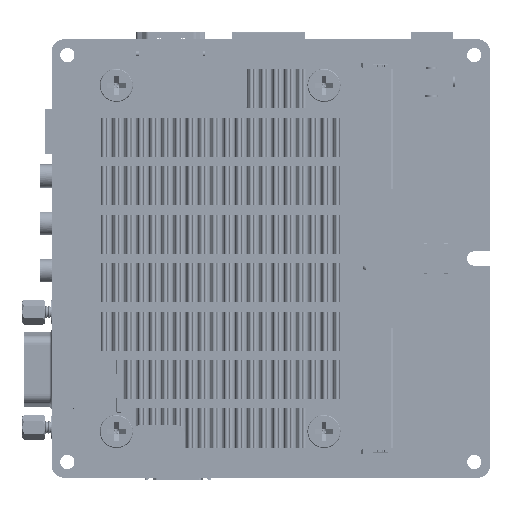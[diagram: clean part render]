
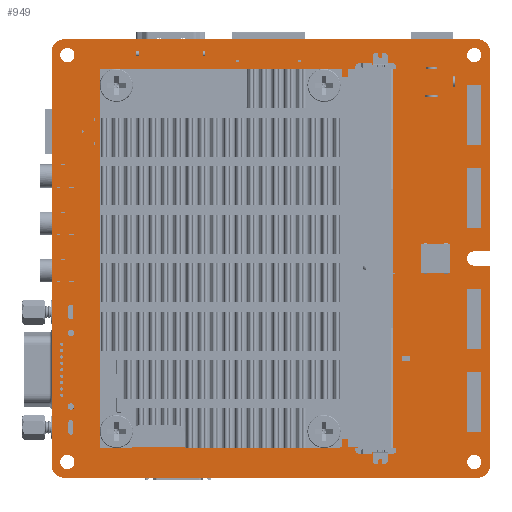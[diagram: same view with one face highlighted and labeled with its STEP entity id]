
A CAD part, front view. The second image highlights one B-rep face of the part: STEP entity #949.
In plain terms, the highlighted planar face has unit normal (0, -1, 0).
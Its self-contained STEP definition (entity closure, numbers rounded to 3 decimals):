
#253=CARTESIAN_POINT('',(44.08,-1.6,-44.08));
#254=DIRECTION('',(0.,1.,0.));
#255=DIRECTION('',(1.,0.,0.));
#256=AXIS2_PLACEMENT_3D('',#253,#254,#255);
#261=CARTESIAN_POINT('',(44.08,-1.6,-44.08));
#262=DIRECTION('',(0.,1.,0.));
#263=DIRECTION('',(-1.,0.,0.));
#264=AXIS2_PLACEMENT_3D('',#261,#262,#263);
#269=CARTESIAN_POINT('',(44.08,-1.6,44.08));
#270=DIRECTION('',(0.,1.,0.));
#271=DIRECTION('',(1.,0.,0.));
#272=AXIS2_PLACEMENT_3D('',#269,#270,#271);
#277=CARTESIAN_POINT('',(44.08,-1.6,44.08));
#278=DIRECTION('',(0.,1.,0.));
#279=DIRECTION('',(-1.,0.,0.));
#280=AXIS2_PLACEMENT_3D('',#277,#278,#279);
#285=CARTESIAN_POINT('',(-44.08,-1.6,-44.08));
#286=DIRECTION('',(0.,1.,0.));
#287=DIRECTION('',(1.,0.,0.));
#288=AXIS2_PLACEMENT_3D('',#285,#286,#287);
#293=CARTESIAN_POINT('',(-44.08,-1.6,-44.08));
#294=DIRECTION('',(0.,1.,0.));
#295=DIRECTION('',(-1.,0.,0.));
#296=AXIS2_PLACEMENT_3D('',#293,#294,#295);
#301=CARTESIAN_POINT('',(-44.08,-1.6,44.08));
#302=DIRECTION('',(0.,1.,0.));
#303=DIRECTION('',(1.,0.,0.));
#304=AXIS2_PLACEMENT_3D('',#301,#302,#303);
#309=CARTESIAN_POINT('',(-44.08,-1.6,44.08));
#310=DIRECTION('',(0.,1.,0.));
#311=DIRECTION('',(-1.,0.,0.));
#312=AXIS2_PLACEMENT_3D('',#309,#310,#311);
#317=CARTESIAN_POINT('',(44.8,-1.6,-44.8));
#318=DIRECTION('',(0.,-1.,0.));
#319=DIRECTION('',(0.,0.,-1.));
#320=AXIS2_PLACEMENT_3D('',#317,#318,#319);
#325=DIRECTION('',(-1.,0.,0.));
#326=VECTOR('',#325,89.6);
#327=CARTESIAN_POINT('',(44.8,-1.6,-47.5));
#328=LINE('',#327,#326);
#332=CARTESIAN_POINT('',(-44.8,-1.6,-44.8));
#333=DIRECTION('',(0.,-1.,0.));
#334=DIRECTION('',(-1.,0.,0.));
#335=AXIS2_PLACEMENT_3D('',#332,#333,#334);
#340=DIRECTION('',(0.,0.,1.));
#341=VECTOR('',#340,89.6);
#342=CARTESIAN_POINT('',(-47.5,-1.6,-44.8));
#343=LINE('',#342,#341);
#347=CARTESIAN_POINT('',(-44.8,-1.6,44.8));
#348=DIRECTION('',(0.,-1.,0.));
#349=DIRECTION('',(0.,0.,1.));
#350=AXIS2_PLACEMENT_3D('',#347,#348,#349);
#355=DIRECTION('',(1.,0.,0.));
#356=VECTOR('',#355,89.6);
#357=CARTESIAN_POINT('',(-44.8,-1.6,47.5));
#358=LINE('',#357,#356);
#362=CARTESIAN_POINT('',(44.8,-1.6,44.8));
#363=DIRECTION('',(0.,-1.,0.));
#364=DIRECTION('',(1.,0.,0.));
#365=AXIS2_PLACEMENT_3D('',#362,#363,#364);
#370=DIRECTION('',(0.,0.,-1.));
#371=VECTOR('',#370,43.25);
#372=CARTESIAN_POINT('',(47.5,-1.6,44.8));
#373=LINE('',#372,#371);
#377=DIRECTION('',(-1.,0.,0.));
#378=VECTOR('',#377,3.42);
#379=CARTESIAN_POINT('',(47.5,-1.6,1.55));
#380=LINE('',#379,#378);
#384=CARTESIAN_POINT('',(44.08,-1.6,0.));
#385=DIRECTION('',(0.,1.,0.));
#386=DIRECTION('',(0.,0.,-1.));
#387=AXIS2_PLACEMENT_3D('',#384,#385,#386);
#392=DIRECTION('',(-1.,0.,0.));
#393=VECTOR('',#392,3.42);
#394=CARTESIAN_POINT('',(47.5,-1.6,-1.55));
#395=LINE('',#394,#393);
#399=DIRECTION('',(0.,0.,-1.));
#400=VECTOR('',#399,43.25);
#401=CARTESIAN_POINT('',(47.5,-1.6,-1.55));
#402=LINE('',#401,#400);
#406=CARTESIAN_POINT('',(11.53,-1.6,37.52));
#407=DIRECTION('',(0.,-1.,0.));
#408=DIRECTION('',(0.,0.,-1.));
#409=AXIS2_PLACEMENT_3D('',#406,#407,#408);
#414=CARTESIAN_POINT('',(11.53,-1.6,37.52));
#415=DIRECTION('',(0.,-1.,0.));
#416=DIRECTION('',(0.,0.,1.));
#417=AXIS2_PLACEMENT_3D('',#414,#415,#416);
#422=CARTESIAN_POINT('',(-33.47,-1.6,37.52));
#423=DIRECTION('',(0.,-1.,0.));
#424=DIRECTION('',(0.,0.,-1.));
#425=AXIS2_PLACEMENT_3D('',#422,#423,#424);
#430=CARTESIAN_POINT('',(-33.47,-1.6,37.52));
#431=DIRECTION('',(0.,-1.,0.));
#432=DIRECTION('',(0.,0.,1.));
#433=AXIS2_PLACEMENT_3D('',#430,#431,#432);
#438=CARTESIAN_POINT('',(11.53,-1.6,-37.52));
#439=DIRECTION('',(0.,-1.,0.));
#440=DIRECTION('',(0.,0.,-1.));
#441=AXIS2_PLACEMENT_3D('',#438,#439,#440);
#446=CARTESIAN_POINT('',(11.53,-1.6,-37.52));
#447=DIRECTION('',(0.,-1.,0.));
#448=DIRECTION('',(0.,0.,1.));
#449=AXIS2_PLACEMENT_3D('',#446,#447,#448);
#454=CARTESIAN_POINT('',(-33.47,-1.6,-37.52));
#455=DIRECTION('',(0.,-1.,0.));
#456=DIRECTION('',(0.,0.,-1.));
#457=AXIS2_PLACEMENT_3D('',#454,#455,#456);
#462=CARTESIAN_POINT('',(-33.47,-1.6,-37.52));
#463=DIRECTION('',(0.,-1.,0.));
#464=DIRECTION('',(0.,0.,1.));
#465=AXIS2_PLACEMENT_3D('',#462,#463,#464);
#656=CARTESIAN_POINT('',(45.63,-1.6,-44.08));
#657=VERTEX_POINT('',#656);
#658=CARTESIAN_POINT('',(42.53,-1.6,-44.08));
#659=VERTEX_POINT('',#658);
#672=CARTESIAN_POINT('',(45.63,-1.6,44.08));
#673=CARTESIAN_POINT('',(42.53,-1.6,44.08));
#674=VERTEX_POINT('',#672);
#675=VERTEX_POINT('',#673);
#676=CARTESIAN_POINT('',(-42.53,-1.6,-44.08));
#677=CARTESIAN_POINT('',(-45.63,-1.6,-44.08));
#678=VERTEX_POINT('',#676);
#679=VERTEX_POINT('',#677);
#680=CARTESIAN_POINT('',(-42.53,-1.6,44.08));
#681=CARTESIAN_POINT('',(-45.63,-1.6,44.08));
#682=VERTEX_POINT('',#680);
#683=VERTEX_POINT('',#681);
#684=CARTESIAN_POINT('',(44.8,-1.6,-47.5));
#685=CARTESIAN_POINT('',(47.5,-1.6,-44.8));
#686=VERTEX_POINT('',#684);
#687=VERTEX_POINT('',#685);
#694=CARTESIAN_POINT('',(-44.8,-1.6,-47.5));
#695=VERTEX_POINT('',#694);
#696=CARTESIAN_POINT('',(47.5,-1.6,44.8));
#697=CARTESIAN_POINT('',(44.8,-1.6,47.5));
#698=VERTEX_POINT('',#696);
#699=VERTEX_POINT('',#697);
#704=CARTESIAN_POINT('',(-44.8,-1.6,47.5));
#705=CARTESIAN_POINT('',(-47.5,-1.6,44.8));
#706=VERTEX_POINT('',#704);
#707=VERTEX_POINT('',#705);
#712=CARTESIAN_POINT('',(-47.5,-1.6,-44.8));
#713=VERTEX_POINT('',#712);
#724=CARTESIAN_POINT('',(44.08,-1.6,-1.55));
#725=CARTESIAN_POINT('',(44.08,-1.6,1.55));
#726=VERTEX_POINT('',#724);
#727=VERTEX_POINT('',#725);
#728=CARTESIAN_POINT('',(47.5,-1.6,1.55));
#729=VERTEX_POINT('',#728);
#730=CARTESIAN_POINT('',(47.5,-1.6,-1.55));
#731=VERTEX_POINT('',#730);
#748=CARTESIAN_POINT('',(11.53,-1.6,36.97));
#749=CARTESIAN_POINT('',(11.53,-1.6,38.07));
#750=VERTEX_POINT('',#748);
#751=VERTEX_POINT('',#749);
#752=CARTESIAN_POINT('',(-33.47,-1.6,36.97));
#753=CARTESIAN_POINT('',(-33.47,-1.6,38.07));
#754=VERTEX_POINT('',#752);
#755=VERTEX_POINT('',#753);
#756=CARTESIAN_POINT('',(11.53,-1.6,-38.07));
#757=CARTESIAN_POINT('',(11.53,-1.6,-36.97));
#758=VERTEX_POINT('',#756);
#759=VERTEX_POINT('',#757);
#760=CARTESIAN_POINT('',(-33.47,-1.6,-38.07));
#761=CARTESIAN_POINT('',(-33.47,-1.6,-36.97));
#762=VERTEX_POINT('',#760);
#763=VERTEX_POINT('',#761);
#872=CARTESIAN_POINT('',(0.,-1.6,0.));
#873=DIRECTION('',(0.,1.,0.));
#874=DIRECTION('',(1.,0.,0.));
#875=AXIS2_PLACEMENT_3D('',#872,#873,#874);
#876=PLANE('',#875);
#878=ORIENTED_EDGE('',*,*,#877,.F.);
#880=ORIENTED_EDGE('',*,*,#879,.T.);
#882=ORIENTED_EDGE('',*,*,#881,.F.);
#884=ORIENTED_EDGE('',*,*,#883,.T.);
#886=ORIENTED_EDGE('',*,*,#885,.F.);
#888=ORIENTED_EDGE('',*,*,#887,.T.);
#890=ORIENTED_EDGE('',*,*,#889,.F.);
#892=ORIENTED_EDGE('',*,*,#891,.T.);
#894=ORIENTED_EDGE('',*,*,#893,.T.);
#896=ORIENTED_EDGE('',*,*,#895,.F.);
#898=ORIENTED_EDGE('',*,*,#897,.F.);
#900=ORIENTED_EDGE('',*,*,#899,.T.);
#901=EDGE_LOOP('',(#878,#880,#882,#884,#886,#888,#890,#892,#894,#896,#898,
#900));
#902=FACE_OUTER_BOUND('',#901,.F.);
#904=ORIENTED_EDGE('',*,*,#903,.F.);
#906=ORIENTED_EDGE('',*,*,#905,.F.);
#907=EDGE_LOOP('',(#904,#906));
#908=FACE_BOUND('',#907,.F.);
#910=ORIENTED_EDGE('',*,*,#909,.F.);
#912=ORIENTED_EDGE('',*,*,#911,.F.);
#913=EDGE_LOOP('',(#910,#912));
#914=FACE_BOUND('',#913,.F.);
#916=ORIENTED_EDGE('',*,*,#915,.F.);
#918=ORIENTED_EDGE('',*,*,#917,.F.);
#919=EDGE_LOOP('',(#916,#918));
#920=FACE_BOUND('',#919,.F.);
#921=ORIENTED_EDGE('',*,*,#852,.F.);
#922=ORIENTED_EDGE('',*,*,#866,.F.);
#923=EDGE_LOOP('',(#921,#922));
#924=FACE_BOUND('',#923,.F.);
#926=ORIENTED_EDGE('',*,*,#925,.T.);
#928=ORIENTED_EDGE('',*,*,#927,.T.);
#929=EDGE_LOOP('',(#926,#928));
#930=FACE_BOUND('',#929,.F.);
#932=ORIENTED_EDGE('',*,*,#931,.T.);
#934=ORIENTED_EDGE('',*,*,#933,.T.);
#935=EDGE_LOOP('',(#932,#934));
#936=FACE_BOUND('',#935,.F.);
#938=ORIENTED_EDGE('',*,*,#937,.T.);
#940=ORIENTED_EDGE('',*,*,#939,.T.);
#941=EDGE_LOOP('',(#938,#940));
#942=FACE_BOUND('',#941,.F.);
#944=ORIENTED_EDGE('',*,*,#943,.T.);
#946=ORIENTED_EDGE('',*,*,#945,.T.);
#947=EDGE_LOOP('',(#944,#946));
#948=FACE_BOUND('',#947,.F.);
#257=CIRCLE('',#256,1.55);
#265=CIRCLE('',#264,1.55);
#273=CIRCLE('',#272,1.55);
#281=CIRCLE('',#280,1.55);
#289=CIRCLE('',#288,1.55);
#297=CIRCLE('',#296,1.55);
#305=CIRCLE('',#304,1.55);
#313=CIRCLE('',#312,1.55);
#321=CIRCLE('',#320,2.7);
#336=CIRCLE('',#335,2.7);
#351=CIRCLE('',#350,2.7);
#366=CIRCLE('',#365,2.7);
#388=CIRCLE('',#387,1.55);
#410=CIRCLE('',#409,0.55);
#418=CIRCLE('',#417,0.55);
#426=CIRCLE('',#425,0.55);
#434=CIRCLE('',#433,0.55);
#442=CIRCLE('',#441,0.55);
#450=CIRCLE('',#449,0.55);
#458=CIRCLE('',#457,0.55);
#466=CIRCLE('',#465,0.55);
#852=EDGE_CURVE('',#657,#659,#257,.T.);
#866=EDGE_CURVE('',#659,#657,#265,.T.);
#877=EDGE_CURVE('',#686,#687,#321,.T.);
#879=EDGE_CURVE('',#686,#695,#328,.T.);
#881=EDGE_CURVE('',#713,#695,#336,.T.);
#883=EDGE_CURVE('',#713,#707,#343,.T.);
#885=EDGE_CURVE('',#706,#707,#351,.T.);
#887=EDGE_CURVE('',#706,#699,#358,.T.);
#889=EDGE_CURVE('',#698,#699,#366,.T.);
#891=EDGE_CURVE('',#698,#729,#373,.T.);
#893=EDGE_CURVE('',#729,#727,#380,.T.);
#895=EDGE_CURVE('',#726,#727,#388,.T.);
#897=EDGE_CURVE('',#731,#726,#395,.T.);
#899=EDGE_CURVE('',#731,#687,#402,.T.);
#903=EDGE_CURVE('',#674,#675,#273,.T.);
#905=EDGE_CURVE('',#675,#674,#281,.T.);
#909=EDGE_CURVE('',#678,#679,#289,.T.);
#911=EDGE_CURVE('',#679,#678,#297,.T.);
#915=EDGE_CURVE('',#682,#683,#305,.T.);
#917=EDGE_CURVE('',#683,#682,#313,.T.);
#925=EDGE_CURVE('',#750,#751,#410,.T.);
#927=EDGE_CURVE('',#751,#750,#418,.T.);
#931=EDGE_CURVE('',#754,#755,#426,.T.);
#933=EDGE_CURVE('',#755,#754,#434,.T.);
#937=EDGE_CURVE('',#758,#759,#442,.T.);
#939=EDGE_CURVE('',#759,#758,#450,.T.);
#943=EDGE_CURVE('',#762,#763,#458,.T.);
#945=EDGE_CURVE('',#763,#762,#466,.T.);
#949=ADVANCED_FACE('',(#902,#908,#914,#920,#924,#930,#936,#942,#948),#876,.F.);
